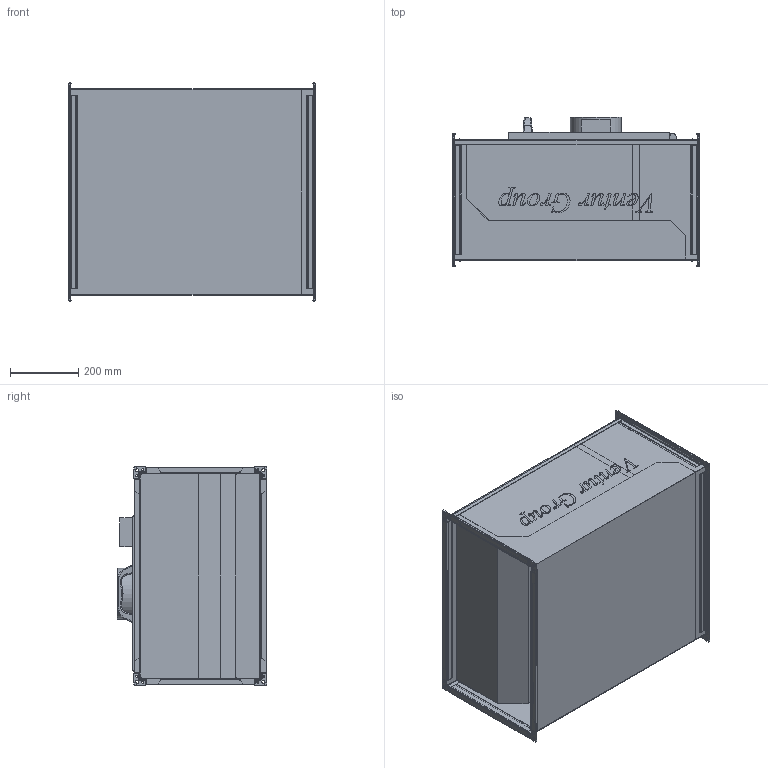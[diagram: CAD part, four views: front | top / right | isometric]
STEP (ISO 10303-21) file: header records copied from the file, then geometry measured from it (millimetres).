
FILE_DESCRIPTION(/* description */ (''),/* implementation_level */ '2;1');
FILE_NAME(/* name */ 'C:\Users\M.Janczarek\Documents\Modele uproszczone\IBF EC\IBF_EC_355S 41010065\IBF_EC_355S 41010065\IBF_EC_355S 41010065.stp',/* time_stamp */ '2018-03-30T11:59:45+02:00',/* author */ ('M.Janczarek'),/* organization */ (''),/* preprocessor_version */ 'ST-DEVELOPER v16.5',/* originating_system */ 'Autodesk Inventor 2017',/* authorisation */ '');
FILE_SCHEMA (('AUTOMOTIVE_DESIGN { 1 0 10303 214 3 1 1 }'));
Products named in the file (1): IBF_EC_355S 41010065
Bounding box: 723.6 x 438.59 x 639.97 mm (x, y, z)
Volume: 23822169.1 mm3; surface area: 5472950.7 mm2
Topology: 1 solids, 2 shells, 1734 faces, 4982 edges, 3202 vertices
Faces by surface type: plane 791, cylinder 476, bspline 359, torus 64, cone 28, sphere 16
Full cylindrical faces by diameter (mm): 6 x16, 9 x8, 150 x3, 220 x1, 360 x1
Entity records: 64150 total; most frequent: CARTESIAN_POINT 18985, ORIENTED_EDGE 9874, DIRECTION 8124, EDGE_CURVE 4937, VERTEX_POINT 3202, LINE 3050, VECTOR 3050, AXIS2_PLACEMENT_3D 2537
